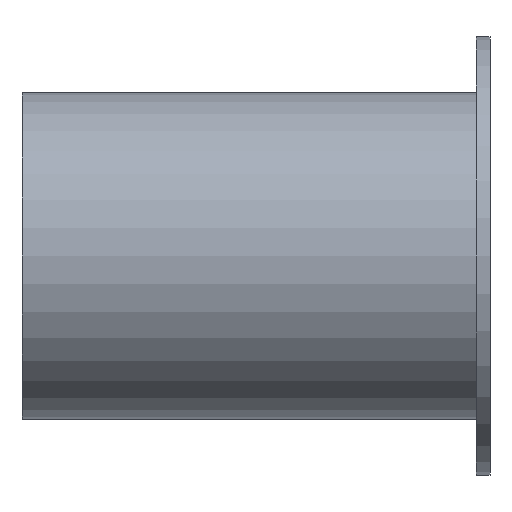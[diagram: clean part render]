
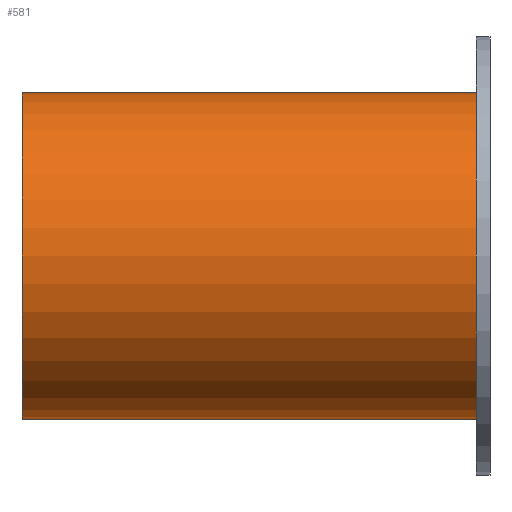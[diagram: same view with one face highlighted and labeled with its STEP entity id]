
A CAD part, left-side view. The second image highlights one B-rep face of the part: STEP entity #581.
In plain terms, the highlighted cylindrical face has radius 69 mm (diameter 138 mm), a full revolution.
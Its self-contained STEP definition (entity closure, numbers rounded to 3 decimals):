
#87=FACE_OUTER_BOUND('',#133,.T.);
#133=EDGE_LOOP('',(#458,#459,#460,#461));
#185=LINE('',#968,#209);
#209=VECTOR('',#782,69.);
#243=CIRCLE('',#651,69.);
#244=CIRCLE('',#653,69.);
#301=VERTEX_POINT('',#964);
#302=VERTEX_POINT('',#967);
#358=EDGE_CURVE('',#301,#301,#243,.T.);
#359=EDGE_CURVE('',#301,#302,#185,.T.);
#360=EDGE_CURVE('',#302,#302,#244,.T.);
#458=ORIENTED_EDGE('',*,*,#358,.F.);
#459=ORIENTED_EDGE('',*,*,#359,.T.);
#460=ORIENTED_EDGE('',*,*,#360,.F.);
#461=ORIENTED_EDGE('',*,*,#359,.F.);
#555=CYLINDRICAL_SURFACE('',#652,69.);
#581=ADVANCED_FACE('',(#87),#555,.T.);
#651=AXIS2_PLACEMENT_3D('',#965,#778,#779);
#652=AXIS2_PLACEMENT_3D('',#966,#780,#781);
#653=AXIS2_PLACEMENT_3D('',#969,#783,#784);
#778=DIRECTION('center_axis',(0.,1.,0.));
#779=DIRECTION('ref_axis',(1.,0.,0.));
#780=DIRECTION('center_axis',(0.,1.,0.));
#781=DIRECTION('ref_axis',(-1.,0.,0.));
#782=DIRECTION('',(0.,-1.,0.));
#783=DIRECTION('center_axis',(0.,-1.,0.));
#784=DIRECTION('ref_axis',(-1.,0.,0.));
#964=CARTESIAN_POINT('',(69.,191.75,0.));
#965=CARTESIAN_POINT('Origin',(0.,191.75,0.));
#966=CARTESIAN_POINT('Origin',(0.,0.,0.));
#967=CARTESIAN_POINT('',(69.,0.,0.));
#968=CARTESIAN_POINT('',(69.,0.,0.));
#969=CARTESIAN_POINT('Origin',(0.,0.,0.));
